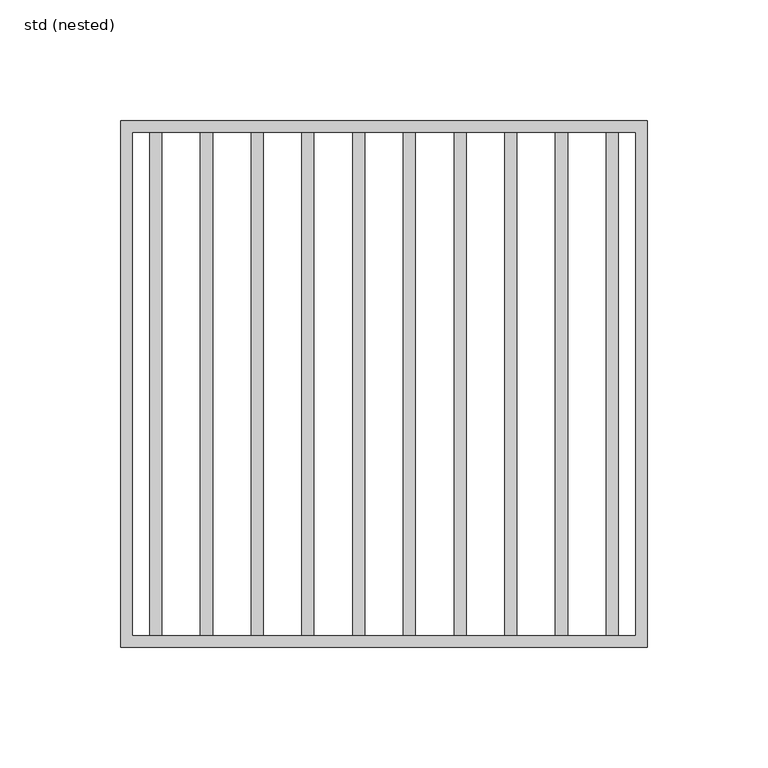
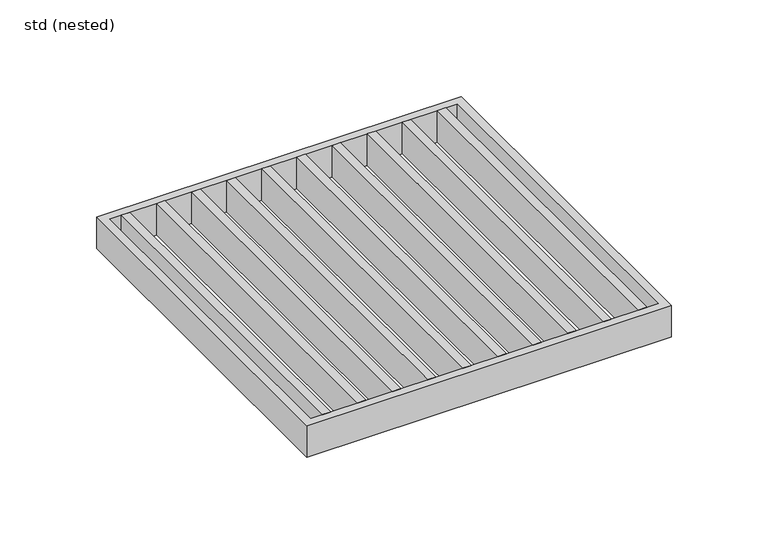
"""IFC4 building model written with IfcOpenShell, lengths in millimetres: sanitary terminal geometry, ZZZ_do not use_PF_ST_UN_square grating for hygienic gully_ACO : std (nested)."""

from ifc_helpers import new_model, si_unit, frame, origin, place, context, project, spatial, polyline, outline, extrude, source, transform, mapped, element, save


def std_nested_97aef0d8(model_context):
    return source(origin(), model_context, "Body", "SweptSolid", [
        extrude(outline(polyline([(-92.0, -104.0), (-97.0, -104.0), (-97.0, 104.0), (-92.0, 104.0), (-92.0, -104.0)])), frame((0.0, 0.0, -20.0), z_axis=(0.0, 0.0, 1.0), x_axis=(1.0, 0.0, 0.0)), (0.0, 0.0, 1.0), 20.0),
        extrude(outline(polyline([(-71.0, -104.0), (-76.0, -104.0), (-76.0, 104.0), (-71.0, 104.0), (-71.0, -104.0)])), frame((0.0, 0.0, -20.0), z_axis=(0.0, 0.0, 1.0), x_axis=(1.0, 0.0, 0.0)), (0.0, 0.0, 1.0), 20.0),
        extrude(outline(polyline([(-50.0, -104.0), (-55.0, -104.0), (-55.0, 104.0), (-50.0, 104.0), (-50.0, -104.0)])), frame((0.0, 0.0, -20.0), z_axis=(0.0, 0.0, 1.0), x_axis=(1.0, 0.0, 0.0)), (0.0, 0.0, 1.0), 20.0),
        extrude(outline(polyline([(-29.0, -104.0), (-34.0, -104.0), (-34.0, 104.0), (-29.0, 104.0), (-29.0, -104.0)])), frame((0.0, 0.0, -20.0), z_axis=(0.0, 0.0, 1.0), x_axis=(1.0, 0.0, 0.0)), (0.0, 0.0, 1.0), 20.0),
        extrude(outline(polyline([(97.0, -104.0), (92.0, -104.0), (92.0, 104.0), (97.0, 104.0), (97.0, -104.0)])), frame((0.0, 0.0, -20.0), z_axis=(0.0, 0.0, 1.0), x_axis=(1.0, 0.0, 0.0)), (0.0, 0.0, 1.0), 20.0),
        extrude(outline(polyline([(76.0, -104.0), (71.0, -104.0), (71.0, 104.0), (76.0, 104.0), (76.0, -104.0)])), frame((0.0, 0.0, -20.0), z_axis=(0.0, 0.0, 1.0), x_axis=(1.0, 0.0, 0.0)), (0.0, 0.0, 1.0), 20.0),
        extrude(outline(polyline([(55.0, -104.0), (50.0, -104.0), (50.0, 104.0), (55.0, 104.0), (55.0, -104.0)])), frame((0.0, 0.0, -20.0), z_axis=(0.0, 0.0, 1.0), x_axis=(1.0, 0.0, 0.0)), (0.0, 0.0, 1.0), 20.0),
        extrude(outline(polyline([(34.0, -104.0), (29.0, -104.0), (29.0, 104.0), (34.0, 104.0), (34.0, -104.0)])), frame((0.0, 0.0, -20.0), z_axis=(0.0, 0.0, 1.0), x_axis=(1.0, 0.0, 0.0)), (0.0, 0.0, 1.0), 20.0),
        extrude(outline(polyline([(-8.0, -104.0), (-13.0, -104.0), (-13.0, 104.0), (-8.0, 104.0), (-8.0, -104.0)])), frame((0.0, 0.0, -20.0), z_axis=(0.0, 0.0, 1.0), x_axis=(1.0, 0.0, 0.0)), (0.0, 0.0, 1.0), 20.0),
        extrude(outline(polyline([(13.0, -104.0), (8.0, -104.0), (8.0, 104.0), (13.0, 104.0), (13.0, -104.0)])), frame((0.0, 0.0, -20.0), z_axis=(0.0, 0.0, 1.0), x_axis=(1.0, 0.0, 0.0)), (0.0, 0.0, 1.0), 20.0),
        extrude(outline(polyline([(109.0, 109.0), (109.0, -109.0), (-109.0, -109.0), (-109.0, 109.0), (109.0, 109.0)]), holes=[polyline([(104.0, 104.0), (-104.0, 104.0), (-104.0, -104.0), (104.0, -104.0), (104.0, 104.0)])]), frame((0.0, 0.0, -20.0), z_axis=(0.0, 0.0, 1.0), x_axis=(1.0, 0.0, 0.0)), (0.0, 0.0, 1.0), 20.0),
    ])


if __name__ == "__main__":
    model = new_model("IFC4")
    model_context = context("Model", 3, world=origin())
    ifc_project = project(units=[si_unit("LENGTHUNIT", "METRE", prefix="MILLI")], contexts=[model_context])
    site = spatial("IfcSite", under=ifc_project)
    building = spatial("IfcBuilding", under=site)
    placement = place(None, origin())
    std_nested_shape = std_nested_97aef0d8(model_context)
    element("IfcSanitaryTerminal", 1, ObjectType="ZZZ_do not use_PF_ST_UN_square grating for hygienic gully_ACO : std (nested)", at=placement, inside=building, context=model_context, shape_type="MappedRepresentation", body=[
        mapped(std_nested_shape, transform((0.0, 0.0, 0.0), x_axis=(1.0, 0.0, 0.0), y_axis=(0.0, 1.0, 0.0), z_axis=(0.0, 0.0, 1.0))),
    ])
    save(model, "model.ifc")
